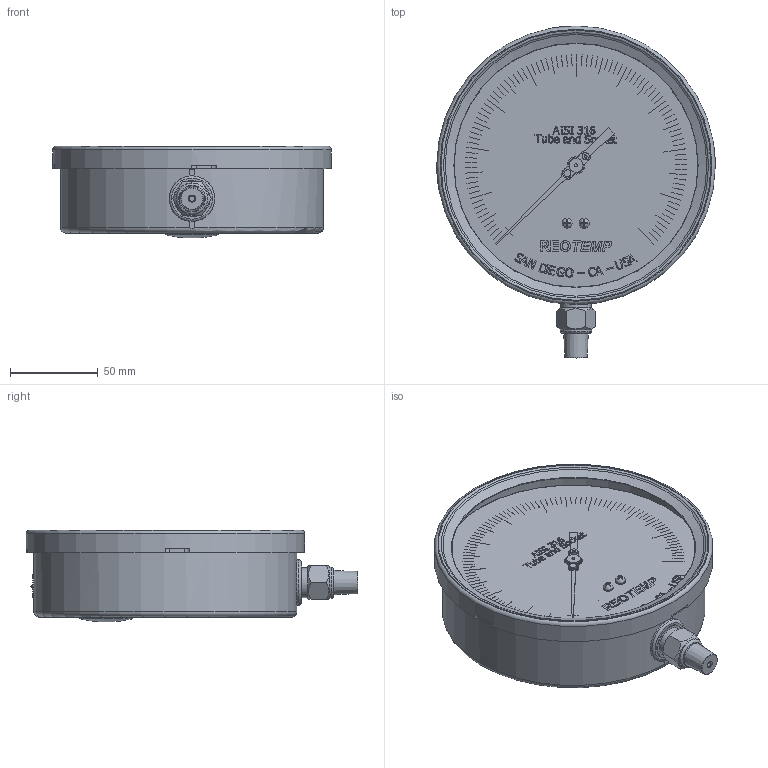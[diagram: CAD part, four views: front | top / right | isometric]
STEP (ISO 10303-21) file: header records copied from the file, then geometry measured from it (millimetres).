
FILE_DESCRIPTION(/* description */ (''),/* implementation_level */ '2;1');
FILE_NAME(/* name */ 'P:\3D Drawings\PR60\PR60-quarter-NPT-Bottom-Connect\PR60-quarter-NPT-Bottom-Connect-STP\PR60-quarter-NPT-Bottom-Connect-STP.stp',/* time_stamp */ '2015-11-06T16:21:46-08:00',/* author */ ('charles'),/* organization */ (''),/* preprocessor_version */ 'ST-DEVELOPER v15.2',/* originating_system */ 'Autodesk Inventor 2014',/* authorisation */ '');
FILE_SCHEMA (('AUTOMOTIVE_DESIGN { 1 0 10303 214 3 1 1 }'));
Length unit declared in the file: inch
Products named in the file (1): PR60-quarter-NPT-Bottom-Connect
Bounding box: 158.75 x 189.16 x 52.08 mm (x, y, z)
Volume: 646919.2 mm3; surface area: 80608 mm2
Topology: 2 solids, 5 shells, 1331 faces, 3435 edges, 2282 vertices
Faces by surface type: plane 980, bspline 285, cylinder 47, torus 13, cone 6
Full cylindrical faces by diameter (mm): 1.6 x1, 1.74 x1, 3.048 x1, 3.937 x1, 3.988 x1, 5.601 x2, 5.715 x2, 5.994 x1, 7.874 x1, 12.7 x1, 17.145 x1, 17.78 x1, 25.908 x1, 30.48 x1, 149.86 x2, 154.96 x1, 158.75 x1
Entity records: 42540 total; most frequent: CARTESIAN_POINT 10962, ORIENTED_EDGE 6760, DIRECTION 4998, EDGE_CURVE 3379, LINE 2626, VECTOR 2626, VERTEX_POINT 2266, EDGE_LOOP 1542
